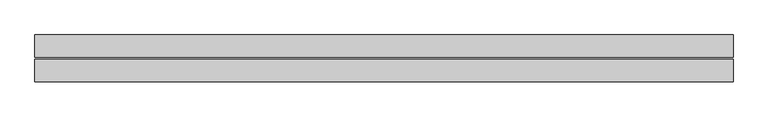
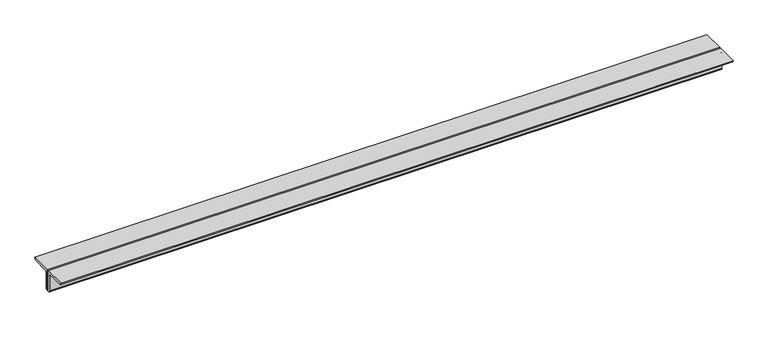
"""IFC4 building model written with IfcOpenShell, lengths in millimetres: beam geometry, Profilati doppi a L : DCED150x12."""

from ifc_helpers import new_model, si_unit, point, frame, frame_2d, origin, place, context, project, spatial, polyline, circle_curve, trimmed, segment, composite_curve, outline, extrude, source, transform, mapped, element, save


def beam_fd1f4b1d(model_context):
    return source(origin(), model_context, "Body", "SweptSolid", [
        extrude(outline(composite_curve([segment(polyline([(6.0, 42.4), (156.0, 42.4)]), True, "CONTINUOUS"), segment(trimmed(circle_curve(frame_2d((141.0, 42.4)), 15.0), [point((156.0, 42.4))], [point((141.0, 27.4))], False, "CARTESIAN"), True, "CONTINUOUS"), segment(polyline([(141.0, 27.4), (36.0, 27.4)]), True, "CONTINUOUS"), segment(trimmed(circle_curve(frame_2d((36.0, 12.4)), 15.0), [point((36.0, 27.4))], [point((21.0, 12.4))], True, "CARTESIAN"), True, "CONTINUOUS"), segment(polyline([(21.0, 12.4), (21.0, -92.6)]), True, "CONTINUOUS"), segment(trimmed(circle_curve(frame_2d((6.0, -92.6)), 15.0), [point((21.0, -92.6))], [point((6.0, -107.6))], False, "CARTESIAN"), True, "CONTINUOUS"), segment(polyline([(6.0, -107.6), (6.0, 42.4)]), True, "CONTINUOUS")], self_intersect=False)), frame((-2063.0, 0.0, 0.0), z_axis=(1.0, 0.0, 0.0), x_axis=(0.0, 1.0, 0.0)), (0.0, 0.0, 1.0), 4638.0),
        extrude(outline(composite_curve([segment(polyline([(-6.0, 42.4), (-6.0, -107.6)]), True, "CONTINUOUS"), segment(trimmed(circle_curve(frame_2d((-6.0, -92.6)), 15.0), [point((-6.0, -107.6))], [point((-21.0, -92.6))], False, "CARTESIAN"), True, "CONTINUOUS"), segment(polyline([(-21.0, -92.6), (-21.0, 12.4)]), True, "CONTINUOUS"), segment(trimmed(circle_curve(frame_2d((-36.0, 12.4)), 15.0), [point((-21.0, 12.4))], [point((-36.0, 27.4))], True, "CARTESIAN"), True, "CONTINUOUS"), segment(polyline([(-36.0, 27.4), (-141.0, 27.4)]), True, "CONTINUOUS"), segment(trimmed(circle_curve(frame_2d((-141.0, 42.4)), 15.0), [point((-141.0, 27.4))], [point((-156.0, 42.4))], False, "CARTESIAN"), True, "CONTINUOUS"), segment(polyline([(-156.0, 42.4), (-6.0, 42.4)]), True, "CONTINUOUS")], self_intersect=False)), frame((-2063.0, 0.0, 0.0), z_axis=(1.0, 0.0, 0.0), x_axis=(0.0, 1.0, 0.0)), (0.0, 0.0, 1.0), 4638.0),
    ])


if __name__ == "__main__":
    model = new_model("IFC4")
    model_context = context("Model", 3, world=origin())
    ifc_project = project(units=[si_unit("LENGTHUNIT", "METRE", prefix="MILLI")], contexts=[model_context])
    site = spatial("IfcSite", under=ifc_project)
    building = spatial("IfcBuilding", under=site)
    placement = place(None, origin())
    beam_shape = beam_fd1f4b1d(model_context)
    element("IfcBeam", 1, ObjectType="Profilati doppi a L : DCED150x12", at=placement, inside=building, context=model_context, shape_type="MappedRepresentation", body=[
        mapped(beam_shape, transform((0.0, 0.0, 0.0), x_axis=(1.0, 0.0, 0.0), y_axis=(0.0, 1.0, 0.0), z_axis=(0.0, 0.0, 1.0))),
    ])
    save(model, "model.ifc")
